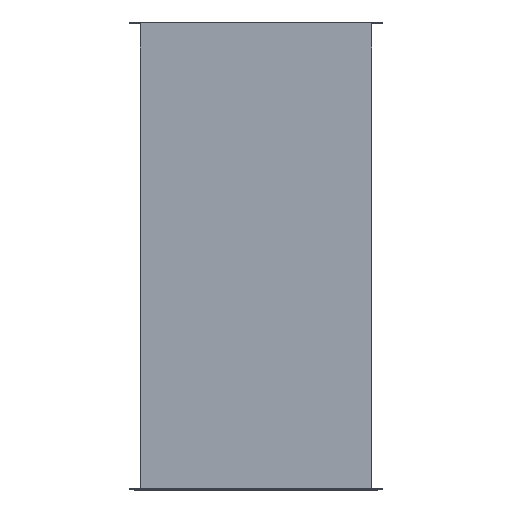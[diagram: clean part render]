
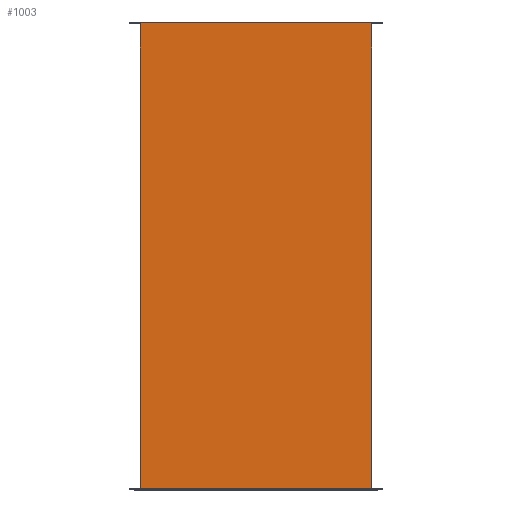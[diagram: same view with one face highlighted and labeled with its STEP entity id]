
A CAD part, top view. The second image highlights one B-rep face of the part: STEP entity #1003.
In plain terms, the highlighted planar face has unit normal (0, 0, 1).
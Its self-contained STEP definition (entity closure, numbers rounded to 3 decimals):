
#115=FACE_OUTER_BOUND('',#167,.T.);
#167=EDGE_LOOP('',(#743,#744,#745,#746));
#287=LINE('',#1505,#391);
#288=LINE('',#1507,#392);
#289=LINE('',#1509,#393);
#290=LINE('',#1510,#394);
#391=VECTOR('',#1215,10.);
#392=VECTOR('',#1216,10.);
#393=VECTOR('',#1217,10.);
#394=VECTOR('',#1218,10.);
#479=VERTEX_POINT('',#1503);
#480=VERTEX_POINT('',#1504);
#481=VERTEX_POINT('',#1506);
#482=VERTEX_POINT('',#1508);
#591=EDGE_CURVE('',#479,#480,#287,.T.);
#592=EDGE_CURVE('',#481,#480,#288,.T.);
#593=EDGE_CURVE('',#481,#482,#289,.T.);
#594=EDGE_CURVE('',#482,#479,#290,.F.);
#743=ORIENTED_EDGE('',*,*,#591,.T.);
#744=ORIENTED_EDGE('',*,*,#592,.F.);
#745=ORIENTED_EDGE('',*,*,#593,.T.);
#746=ORIENTED_EDGE('',*,*,#594,.T.);
#967=PLANE('',#1063);
#1003=ADVANCED_FACE('',(#115),#967,.T.);
#1063=AXIS2_PLACEMENT_3D('',#1502,#1213,#1214);
#1213=DIRECTION('center_axis',(0.,0.,1.));
#1214=DIRECTION('ref_axis',(1.,0.,0.));
#1215=DIRECTION('',(-1.,0.,0.));
#1216=DIRECTION('',(0.,1.,0.));
#1217=DIRECTION('',(1.,0.,0.));
#1218=DIRECTION('',(0.,-1.,0.));
#1502=CARTESIAN_POINT('Origin',(-245.,-500.,147.));
#1503=CARTESIAN_POINT('',(247.,498.,147.));
#1504=CARTESIAN_POINT('',(-247.,498.,147.));
#1505=CARTESIAN_POINT('',(-122.5,498.,147.));
#1506=CARTESIAN_POINT('',(-247.,-498.,147.));
#1507=CARTESIAN_POINT('',(-247.,-500.,147.));
#1508=CARTESIAN_POINT('',(247.,-498.,147.));
#1509=CARTESIAN_POINT('',(-122.5,-498.,147.));
#1510=CARTESIAN_POINT('',(247.,-500.,147.));
